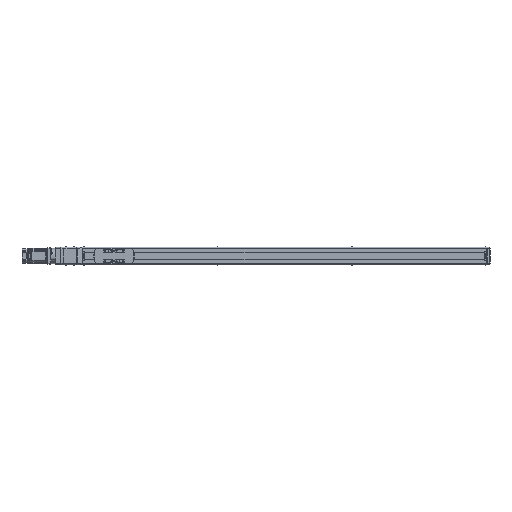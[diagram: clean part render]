
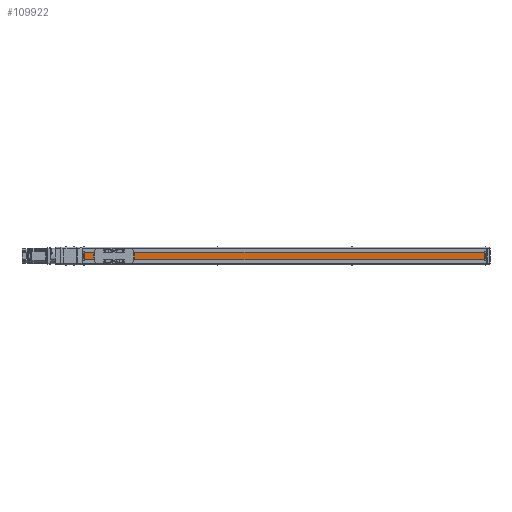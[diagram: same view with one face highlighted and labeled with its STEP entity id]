
A CAD part, top view. The second image highlights one B-rep face of the part: STEP entity #109922.
In plain terms, the highlighted planar face has unit normal (0, 0, 1) as drawn and (0, 1, 0) by its records, which use the part's own axes.
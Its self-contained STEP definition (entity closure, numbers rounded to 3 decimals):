
#109922 = ADVANCED_FACE('',(#109923),#109937,.T.);
#109923 = FACE_BOUND('',#109924,.T.);
#109924 = EDGE_LOOP('',(#109925,#109960,#109988,#110016));
#109925 = ORIENTED_EDGE('',*,*,#109926,.F.);
#109926 = EDGE_CURVE('',#109927,#109929,#109931,.T.);
#109927 = VERTEX_POINT('',#109928);
#109928 = CARTESIAN_POINT('',(-1480.5,18.,-13.));
#109929 = VERTEX_POINT('',#109930);
#109930 = CARTESIAN_POINT('',(-21.5,18.,-13.));
#109931 = SURFACE_CURVE('',#109932,(#109936,#109948),.PCURVE_S1.);
#109932 = LINE('',#109933,#109934);
#109933 = CARTESIAN_POINT('',(-1480.5,18.,-13.));
#109934 = VECTOR('',#109935,1.);
#109935 = DIRECTION('',(1.,0.,0.));
#109936 = PCURVE('',#109937,#109942);
#109937 = PLANE('',#109938);
#109938 = AXIS2_PLACEMENT_3D('',#109939,#109940,#109941);
#109939 = CARTESIAN_POINT('',(-1490.5,18.,-26.583));
#109940 = DIRECTION('',(0.,1.,0.));
#109941 = DIRECTION('',(0.,-0.,1.));
#109942 = DEFINITIONAL_REPRESENTATION('',(#109943),#109947);
#109943 = LINE('',#109944,#109945);
#109944 = CARTESIAN_POINT('',(13.583,10.));
#109945 = VECTOR('',#109946,1.);
#109946 = DIRECTION('',(0.,1.));
#109947 = ( GEOMETRIC_REPRESENTATION_CONTEXT(2) 
PARAMETRIC_REPRESENTATION_CONTEXT() REPRESENTATION_CONTEXT('2D SPACE',''
  ) );
#109948 = PCURVE('',#109949,#109954);
#109949 = PLANE('',#109950);
#109950 = AXIS2_PLACEMENT_3D('',#109951,#109952,#109953);
#109951 = CARTESIAN_POINT('',(-1480.5,18.,-13.));
#109952 = DIRECTION('',(0.,0.,1.));
#109953 = DIRECTION('',(1.,0.,-0.));
#109954 = DEFINITIONAL_REPRESENTATION('',(#109955),#109959);
#109955 = LINE('',#109956,#109957);
#109956 = CARTESIAN_POINT('',(0.,0.));
#109957 = VECTOR('',#109958,1.);
#109958 = DIRECTION('',(1.,0.));
#109959 = ( GEOMETRIC_REPRESENTATION_CONTEXT(2) 
PARAMETRIC_REPRESENTATION_CONTEXT() REPRESENTATION_CONTEXT('2D SPACE',''
  ) );
#109960 = ORIENTED_EDGE('',*,*,#109961,.T.);
#109961 = EDGE_CURVE('',#109927,#109962,#109964,.T.);
#109962 = VERTEX_POINT('',#109963);
#109963 = CARTESIAN_POINT('',(-1480.5,18.,13.));
#109964 = SURFACE_CURVE('',#109965,(#109969,#109976),.PCURVE_S1.);
#109965 = LINE('',#109966,#109967);
#109966 = CARTESIAN_POINT('',(-1480.5,18.,-26.583));
#109967 = VECTOR('',#109968,1.);
#109968 = DIRECTION('',(0.,0.,1.));
#109969 = PCURVE('',#109937,#109970);
#109970 = DEFINITIONAL_REPRESENTATION('',(#109971),#109975);
#109971 = LINE('',#109972,#109973);
#109972 = CARTESIAN_POINT('',(0.,10.));
#109973 = VECTOR('',#109974,1.);
#109974 = DIRECTION('',(1.,0.));
#109975 = ( GEOMETRIC_REPRESENTATION_CONTEXT(2) 
PARAMETRIC_REPRESENTATION_CONTEXT() REPRESENTATION_CONTEXT('2D SPACE',''
  ) );
#109976 = PCURVE('',#109977,#109982);
#109977 = PLANE('',#109978);
#109978 = AXIS2_PLACEMENT_3D('',#109979,#109980,#109981);
#109979 = CARTESIAN_POINT('',(-1480.5,0.,0.));
#109980 = DIRECTION('',(1.,0.,0.));
#109981 = DIRECTION('',(0.,0.,-1.));
#109982 = DEFINITIONAL_REPRESENTATION('',(#109983),#109987);
#109983 = LINE('',#109984,#109985);
#109984 = CARTESIAN_POINT('',(26.583,18.));
#109985 = VECTOR('',#109986,1.);
#109986 = DIRECTION('',(-1.,0.));
#109987 = ( GEOMETRIC_REPRESENTATION_CONTEXT(2) 
PARAMETRIC_REPRESENTATION_CONTEXT() REPRESENTATION_CONTEXT('2D SPACE',''
  ) );
#109988 = ORIENTED_EDGE('',*,*,#109989,.T.);
#109989 = EDGE_CURVE('',#109962,#109990,#109992,.T.);
#109990 = VERTEX_POINT('',#109991);
#109991 = CARTESIAN_POINT('',(-21.5,18.,13.));
#109992 = SURFACE_CURVE('',#109993,(#109997,#110004),.PCURVE_S1.);
#109993 = LINE('',#109994,#109995);
#109994 = CARTESIAN_POINT('',(-1480.5,18.,13.));
#109995 = VECTOR('',#109996,1.);
#109996 = DIRECTION('',(1.,0.,0.));
#109997 = PCURVE('',#109937,#109998);
#109998 = DEFINITIONAL_REPRESENTATION('',(#109999),#110003);
#109999 = LINE('',#110000,#110001);
#110000 = CARTESIAN_POINT('',(39.583,10.));
#110001 = VECTOR('',#110002,1.);
#110002 = DIRECTION('',(0.,1.));
#110003 = ( GEOMETRIC_REPRESENTATION_CONTEXT(2) 
PARAMETRIC_REPRESENTATION_CONTEXT() REPRESENTATION_CONTEXT('2D SPACE',''
  ) );
#110004 = PCURVE('',#110005,#110010);
#110005 = PLANE('',#110006);
#110006 = AXIS2_PLACEMENT_3D('',#110007,#110008,#110009);
#110007 = CARTESIAN_POINT('',(-1480.5,15.,13.));
#110008 = DIRECTION('',(0.,0.,-1.));
#110009 = DIRECTION('',(-1.,0.,0.));
#110010 = DEFINITIONAL_REPRESENTATION('',(#110011),#110015);
#110011 = LINE('',#110012,#110013);
#110012 = CARTESIAN_POINT('',(0.,3.));
#110013 = VECTOR('',#110014,1.);
#110014 = DIRECTION('',(-1.,0.));
#110015 = ( GEOMETRIC_REPRESENTATION_CONTEXT(2) 
PARAMETRIC_REPRESENTATION_CONTEXT() REPRESENTATION_CONTEXT('2D SPACE',''
  ) );
#110016 = ORIENTED_EDGE('',*,*,#110017,.T.);
#110017 = EDGE_CURVE('',#109990,#109929,#110018,.T.);
#110018 = SURFACE_CURVE('',#110019,(#110023,#110030),.PCURVE_S1.);
#110019 = LINE('',#110020,#110021);
#110020 = CARTESIAN_POINT('',(-21.5,18.,-26.583));
#110021 = VECTOR('',#110022,1.);
#110022 = DIRECTION('',(0.,0.,-1.));
#110023 = PCURVE('',#109937,#110024);
#110024 = DEFINITIONAL_REPRESENTATION('',(#110025),#110029);
#110025 = LINE('',#110026,#110027);
#110026 = CARTESIAN_POINT('',(0.,1469.));
#110027 = VECTOR('',#110028,1.);
#110028 = DIRECTION('',(-1.,0.));
#110029 = ( GEOMETRIC_REPRESENTATION_CONTEXT(2) 
PARAMETRIC_REPRESENTATION_CONTEXT() REPRESENTATION_CONTEXT('2D SPACE',''
  ) );
#110030 = PCURVE('',#110031,#110036);
#110031 = PLANE('',#110032);
#110032 = AXIS2_PLACEMENT_3D('',#110033,#110034,#110035);
#110033 = CARTESIAN_POINT('',(-21.5,0.,0.));
#110034 = DIRECTION('',(1.,0.,0.));
#110035 = DIRECTION('',(0.,0.,-1.));
#110036 = DEFINITIONAL_REPRESENTATION('',(#110037),#110041);
#110037 = LINE('',#110038,#110039);
#110038 = CARTESIAN_POINT('',(26.583,18.));
#110039 = VECTOR('',#110040,1.);
#110040 = DIRECTION('',(1.,0.));
#110041 = ( GEOMETRIC_REPRESENTATION_CONTEXT(2) 
PARAMETRIC_REPRESENTATION_CONTEXT() REPRESENTATION_CONTEXT('2D SPACE',''
  ) );
